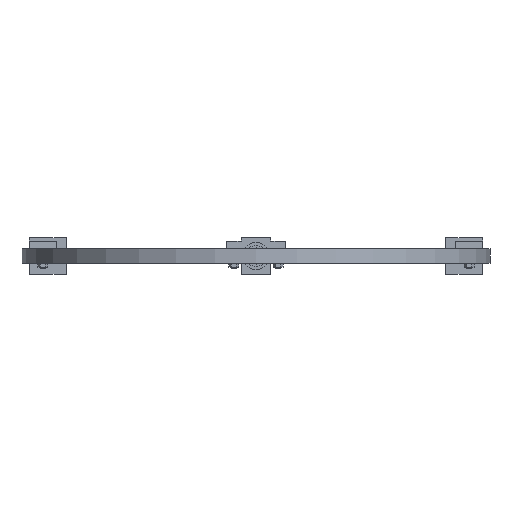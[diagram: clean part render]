
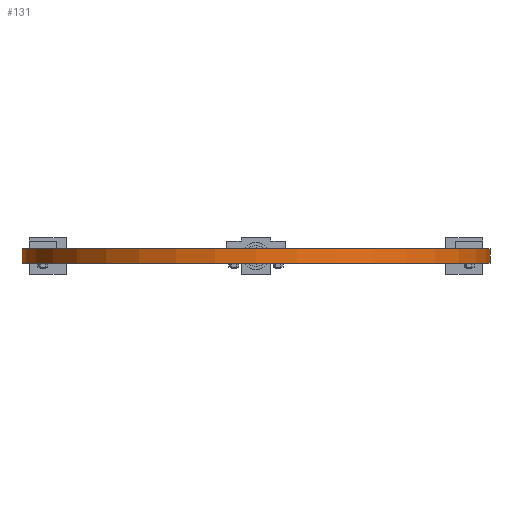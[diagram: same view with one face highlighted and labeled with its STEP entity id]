
A CAD part, front view. The second image highlights one B-rep face of the part: STEP entity #131.
In plain terms, the highlighted cylindrical face has radius 190 mm (diameter 380 mm), a full revolution.
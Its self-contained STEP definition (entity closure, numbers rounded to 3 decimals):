
#131 = ADVANCED_FACE('',(#132),#145,.T.);
#132 = FACE_BOUND('',#133,.T.);
#133 = EDGE_LOOP('',(#134,#168,#191,#218));
#134 = ORIENTED_EDGE('',*,*,#135,.F.);
#135 = EDGE_CURVE('',#136,#136,#138,.T.);
#136 = VERTEX_POINT('',#137);
#137 = CARTESIAN_POINT('',(1134.,0.,556.));
#138 = SURFACE_CURVE('',#139,(#144,#156),.PCURVE_S1.);
#139 = CIRCLE('',#140,190.);
#140 = AXIS2_PLACEMENT_3D('',#141,#142,#143);
#141 = CARTESIAN_POINT('',(944.,0.,556.));
#142 = DIRECTION('',(0.,0.,1.));
#143 = DIRECTION('',(1.,0.,-0.));
#144 = PCURVE('',#145,#150);
#145 = CYLINDRICAL_SURFACE('',#146,190.);
#146 = AXIS2_PLACEMENT_3D('',#147,#148,#149);
#147 = CARTESIAN_POINT('',(944.,0.,544.));
#148 = DIRECTION('',(0.,0.,1.));
#149 = DIRECTION('',(1.,0.,-0.));
#150 = DEFINITIONAL_REPRESENTATION('',(#151),#155);
#151 = LINE('',#152,#153);
#152 = CARTESIAN_POINT('',(0.,12.));
#153 = VECTOR('',#154,1.);
#154 = DIRECTION('',(1.,0.));
#155 = ( GEOMETRIC_REPRESENTATION_CONTEXT(2) 
PARAMETRIC_REPRESENTATION_CONTEXT() REPRESENTATION_CONTEXT('2D SPACE',''
  ) );
#156 = PCURVE('',#157,#162);
#157 = PLANE('',#158);
#158 = AXIS2_PLACEMENT_3D('',#159,#160,#161);
#159 = CARTESIAN_POINT('',(944.,0.,556.));
#160 = DIRECTION('',(0.,0.,1.));
#161 = DIRECTION('',(1.,0.,-0.));
#162 = DEFINITIONAL_REPRESENTATION('',(#163),#167);
#163 = CIRCLE('',#164,190.);
#164 = AXIS2_PLACEMENT_2D('',#165,#166);
#165 = CARTESIAN_POINT('',(0.,0.));
#166 = DIRECTION('',(1.,0.));
#167 = ( GEOMETRIC_REPRESENTATION_CONTEXT(2) 
PARAMETRIC_REPRESENTATION_CONTEXT() REPRESENTATION_CONTEXT('2D SPACE',''
  ) );
#168 = ORIENTED_EDGE('',*,*,#169,.F.);
#169 = EDGE_CURVE('',#170,#136,#172,.T.);
#170 = VERTEX_POINT('',#171);
#171 = CARTESIAN_POINT('',(1134.,0.,544.));
#172 = SEAM_CURVE('',#173,(#177,#184),.PCURVE_S1.);
#173 = LINE('',#174,#175);
#174 = CARTESIAN_POINT('',(1134.,0.,544.));
#175 = VECTOR('',#176,1.);
#176 = DIRECTION('',(0.,0.,1.));
#177 = PCURVE('',#145,#178);
#178 = DEFINITIONAL_REPRESENTATION('',(#179),#183);
#179 = LINE('',#180,#181);
#180 = CARTESIAN_POINT('',(6.283,-0.));
#181 = VECTOR('',#182,1.);
#182 = DIRECTION('',(0.,1.));
#183 = ( GEOMETRIC_REPRESENTATION_CONTEXT(2) 
PARAMETRIC_REPRESENTATION_CONTEXT() REPRESENTATION_CONTEXT('2D SPACE',''
  ) );
#184 = PCURVE('',#145,#185);
#185 = DEFINITIONAL_REPRESENTATION('',(#186),#190);
#186 = LINE('',#187,#188);
#187 = CARTESIAN_POINT('',(0.,-0.));
#188 = VECTOR('',#189,1.);
#189 = DIRECTION('',(0.,1.));
#190 = ( GEOMETRIC_REPRESENTATION_CONTEXT(2) 
PARAMETRIC_REPRESENTATION_CONTEXT() REPRESENTATION_CONTEXT('2D SPACE',''
  ) );
#191 = ORIENTED_EDGE('',*,*,#192,.T.);
#192 = EDGE_CURVE('',#170,#170,#193,.T.);
#193 = SURFACE_CURVE('',#194,(#199,#206),.PCURVE_S1.);
#194 = CIRCLE('',#195,190.);
#195 = AXIS2_PLACEMENT_3D('',#196,#197,#198);
#196 = CARTESIAN_POINT('',(944.,0.,544.));
#197 = DIRECTION('',(0.,0.,1.));
#198 = DIRECTION('',(1.,0.,-0.));
#199 = PCURVE('',#145,#200);
#200 = DEFINITIONAL_REPRESENTATION('',(#201),#205);
#201 = LINE('',#202,#203);
#202 = CARTESIAN_POINT('',(0.,0.));
#203 = VECTOR('',#204,1.);
#204 = DIRECTION('',(1.,0.));
#205 = ( GEOMETRIC_REPRESENTATION_CONTEXT(2) 
PARAMETRIC_REPRESENTATION_CONTEXT() REPRESENTATION_CONTEXT('2D SPACE',''
  ) );
#206 = PCURVE('',#207,#212);
#207 = PLANE('',#208);
#208 = AXIS2_PLACEMENT_3D('',#209,#210,#211);
#209 = CARTESIAN_POINT('',(944.,0.,544.));
#210 = DIRECTION('',(0.,0.,1.));
#211 = DIRECTION('',(1.,0.,-0.));
#212 = DEFINITIONAL_REPRESENTATION('',(#213),#217);
#213 = CIRCLE('',#214,190.);
#214 = AXIS2_PLACEMENT_2D('',#215,#216);
#215 = CARTESIAN_POINT('',(0.,0.));
#216 = DIRECTION('',(1.,0.));
#217 = ( GEOMETRIC_REPRESENTATION_CONTEXT(2) 
PARAMETRIC_REPRESENTATION_CONTEXT() REPRESENTATION_CONTEXT('2D SPACE',''
  ) );
#218 = ORIENTED_EDGE('',*,*,#169,.T.);
